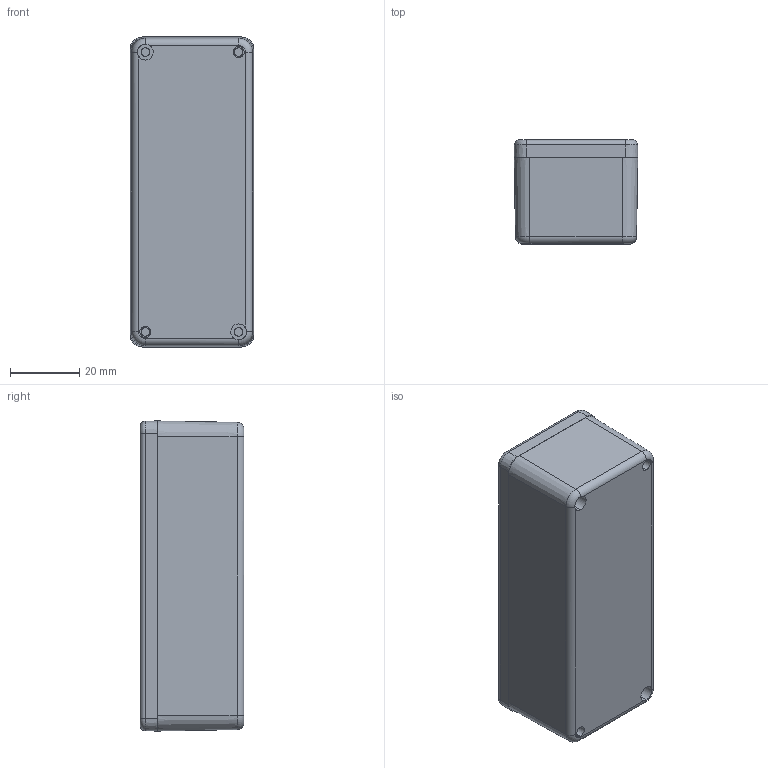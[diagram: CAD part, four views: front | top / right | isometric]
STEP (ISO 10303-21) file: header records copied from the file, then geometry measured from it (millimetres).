
FILE_DESCRIPTION (( 'STEP AP203' ), '1' );
FILE_NAME ('AN-00P-01.step', '2016-12-27T20:39:09', ( '' ), ( '' ), 'SwSTEP 2.0', 'SolidWorks 2016', '' );
FILE_SCHEMA (( 'CONFIG_CONTROL_DESIGN' ));
Length unit declared in the file: inch
Products named in the file (6): cross recessed countersunk head screw_jis_JIS 1111 Cross recessed countersunk head screw - M3 x 12 - Z --12CSST; AN-00P-01; AN-00B_AN-00BP-01; GASKET-100-01; AN-00C_AN-00C-01; SCREWS-033-4
Assembly tree (8 placements, depth 3):
  AN-00P-01
    AN-00B_AN-00BP-01
    AN-00C_AN-00C-01
    SCREWS-033-4
      cross recessed countersunk head screw_jis_JIS 1111 Cross recessed countersunk head screw - M3 x 12 - Z --12CSST  x4
    GASKET-100-01
Bounding box: 35.8 x 30 x 89.7 mm (x, y, z)
Volume: 39333.3 mm3; surface area: 30020.1 mm2
Topology: 7 solids, 7 shells, 453 faces, 1138 edges, 700 vertices
Faces by surface type: plane 183, cylinder 120, cone 110, torus 40
Entity records: 10962 total; most frequent: DIRECTION 1889, CARTESIAN_POINT 1879, ORIENTED_EDGE 1708, EDGE_CURVE 854, AXIS2_PLACEMENT_3D 728, VERTEX_POINT 538, VECTOR 433, LINE 433
